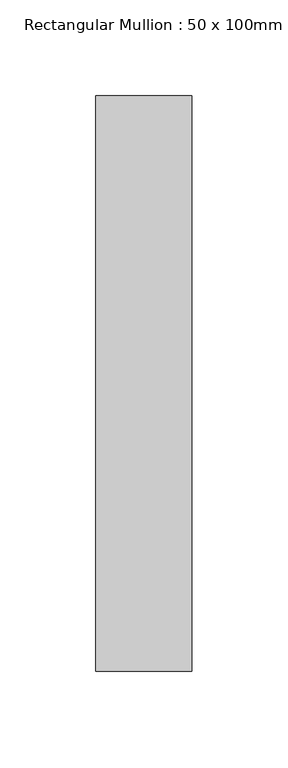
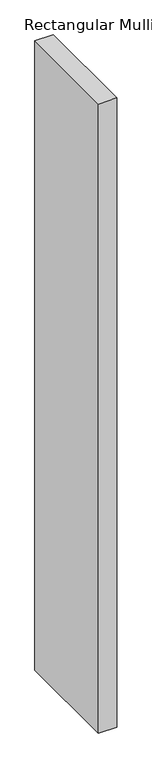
"""IFC4 building model written with IfcOpenShell, lengths in millimetres: member geometry, Rectangular Mullion : 50 x 100mm."""

from ifc_helpers import new_model, si_unit, frame, origin, place, context, project, spatial, polyline, outline, extrude, source, transform, mapped, element, save


def rectangular_mullion_50_x_100mm_c09c87a4(model_context):
    return source(origin(), model_context, "Body", "SweptSolid", [
        extrude(outline(polyline([(0.0, 175.0), (0.0, -125.0), (-50.0, -125.0), (-50.0, 175.0), (0.0, 175.0)])), frame((0.0, 0.0, -1814.0975405), z_axis=(0.0, 0.0, 1.0), x_axis=(1.0, 0.0, 0.0)), (0.0, 0.0, 1.0), 1814.0975405),
    ])


if __name__ == "__main__":
    model = new_model("IFC4")
    model_context = context("Model", 3, world=origin())
    ifc_project = project(units=[si_unit("LENGTHUNIT", "METRE", prefix="MILLI")], contexts=[model_context])
    site = spatial("IfcSite", under=ifc_project)
    building = spatial("IfcBuilding", under=site)
    placement = place(None, origin())
    rectangular_mullion_50_x_100mm_shape = rectangular_mullion_50_x_100mm_c09c87a4(model_context)
    element("IfcMember", 1, ObjectType="Rectangular Mullion : 50 x 100mm", at=placement, inside=building, context=model_context, shape_type="MappedRepresentation", body=[
        mapped(rectangular_mullion_50_x_100mm_shape, transform((0.0, 0.0, 0.0), x_axis=(1.0, 0.0, 0.0), y_axis=(0.0, 1.0, 0.0), z_axis=(0.0, 0.0, 1.0))),
    ])
    save(model, "model.ifc")
